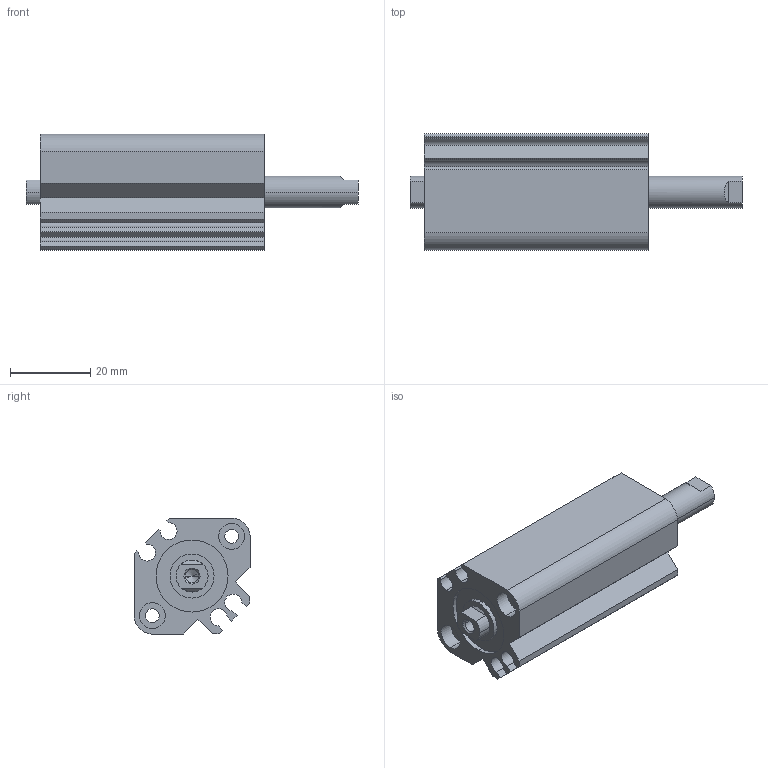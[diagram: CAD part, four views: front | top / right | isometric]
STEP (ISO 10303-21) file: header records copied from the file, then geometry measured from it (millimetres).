
FILE_DESCRIPTION (( 'STEP AP203' ), '1' );
FILE_NAME ('CCMB16-20F-P.STEP', '2020-08-05T11:03:45', ( '' ), ( '' ), 'SwSTEP 2.0', 'SolidWorks 2019', '' );
FILE_SCHEMA (( 'CONFIG_CONTROL_DESIGN' ));
Length unit declared in the file: millimetre
Products named in the file (1): CCMB16-20F-P
Bounding box: 83 x 29 x 29 mm (x, y, z)
Volume: 33670.9 mm3; surface area: 16627.3 mm2
Topology: 2 solids, 2 shells, 114 faces, 276 edges, 178 vertices
Faces by surface type: cylinder 52, plane 50, cone 12
Entity records: 3419 total; most frequent: DIRECTION 614, CARTESIAN_POINT 577, ORIENTED_EDGE 544, EDGE_CURVE 272, AXIS2_PLACEMENT_3D 231, VERTEX_POINT 178, VECTOR 152, LINE 152
